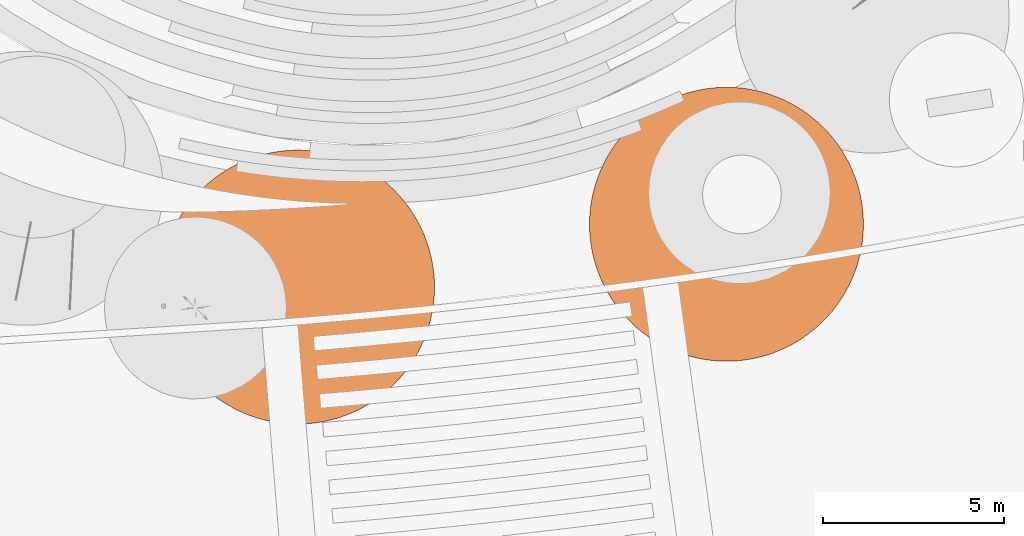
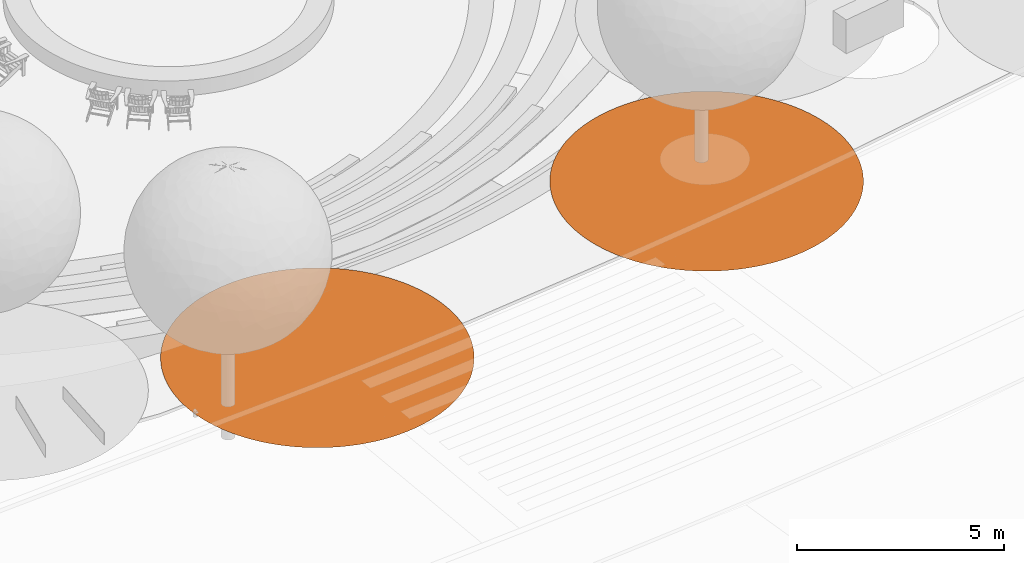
# One storey, part 65 of 75: 2 proxies.
"""IFC2X3 building model written with IfcOpenShell, lengths in metres."""

from ifc_helpers import new_model, entity, si_unit, converted_unit, derived_unit, direction, frame, origin, place, context, subcontext, project, spatial, face_set, surface_model, source, transform, mapped, material, type_object, type_shapes, element, save


model = new_model("IFC2X3")

# Units and contexts
model_context = context("Model", 3, precision=1e-05, world=origin(), true_north=direction((6.123031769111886e-17, 1.0)))
body_context = subcontext(model_context, "Body", "Model", "MODEL_VIEW")
ifc_project = project(units=[si_unit("LENGTHUNIT", "METRE"), si_unit("AREAUNIT", "SQUARE_METRE"), si_unit("VOLUMEUNIT", "CUBIC_METRE"), converted_unit("PLANEANGLEUNIT", "DEGREE", entity("IfcRatioMeasure", 0.017453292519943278), si_unit("PLANEANGLEUNIT", "RADIAN"), dimensions=[0, 0, 0, 0, 0, 0, 0]), si_unit("MASSUNIT", "GRAM", prefix="KILO"), derived_unit("MASSDENSITYUNIT", [(si_unit("MASSUNIT", "GRAM", prefix="KILO"), 1), (si_unit("LENGTHUNIT", "METRE"), -3)]), derived_unit("IONCONCENTRATIONUNIT", [(si_unit("MASSUNIT", "GRAM", prefix="KILO"), 1), (si_unit("LENGTHUNIT", "METRE"), -3)]), derived_unit("MOMENTOFINERTIAUNIT", [(si_unit("LENGTHUNIT", "METRE"), 4)]), si_unit("TIMEUNIT", "SECOND"), si_unit("FREQUENCYUNIT", "HERTZ"), si_unit("THERMODYNAMICTEMPERATUREUNIT", "DEGREE_CELSIUS"), derived_unit("THERMALTRANSMITTANCEUNIT", [(si_unit("MASSUNIT", "GRAM", prefix="KILO"), 1), (si_unit("THERMODYNAMICTEMPERATUREUNIT", "KELVIN"), -1), (si_unit("TIMEUNIT", "SECOND"), -3)]), derived_unit("THERMALCONDUCTANCEUNIT", [(si_unit("MASSUNIT", "GRAM", prefix="KILO"), 1), (si_unit("THERMODYNAMICTEMPERATUREUNIT", "KELVIN"), -1), (si_unit("TIMEUNIT", "SECOND"), -3), (si_unit("LENGTHUNIT", "METRE"), 1)]), derived_unit("VOLUMETRICFLOWRATEUNIT", [(si_unit("LENGTHUNIT", "METRE"), 3), (si_unit("TIMEUNIT", "SECOND"), -1)]), derived_unit("MASSFLOWRATEUNIT", [(si_unit("MASSUNIT", "GRAM", prefix="KILO"), 1), (si_unit("TIMEUNIT", "SECOND"), -1)]), derived_unit("ROTATIONALFREQUENCYUNIT", [(si_unit("TIMEUNIT", "SECOND"), -1)]), si_unit("ELECTRICCURRENTUNIT", "AMPERE"), si_unit("ELECTRICVOLTAGEUNIT", "VOLT"), si_unit("POWERUNIT", "WATT"), si_unit("FORCEUNIT", "NEWTON", prefix="KILO"), si_unit("ILLUMINANCEUNIT", "LUX"), si_unit("LUMINOUSFLUXUNIT", "LUMEN"), si_unit("LUMINOUSINTENSITYUNIT", "CANDELA"), derived_unit("USERDEFINED", [(si_unit("MASSUNIT", "GRAM", prefix="KILO"), -1), (si_unit("LENGTHUNIT", "METRE"), -2), (si_unit("TIMEUNIT", "SECOND"), 3), (si_unit("LUMINOUSFLUXUNIT", "LUMEN"), 1)]), derived_unit("USERDEFINED", [(si_unit("MASSUNIT", "GRAM", prefix="KILO"), 1), (si_unit("TIMEUNIT", "SECOND"), -3), (si_unit("LENGTHUNIT", "METRE"), 3), (si_unit("ELECTRICCURRENTUNIT", "AMPERE"), -2)]), derived_unit("SOUNDPOWERUNIT", [(si_unit("MASSUNIT", "GRAM", prefix="KILO"), 1), (si_unit("TIMEUNIT", "SECOND"), -3), (si_unit("LENGTHUNIT", "METRE"), 2)]), derived_unit("SOUNDPRESSUREUNIT", [(si_unit("MASSUNIT", "GRAM", prefix="KILO"), 1), (si_unit("LENGTHUNIT", "METRE"), -1), (si_unit("TIMEUNIT", "SECOND"), -2)]), derived_unit("LINEARVELOCITYUNIT", [(si_unit("LENGTHUNIT", "METRE"), 1), (si_unit("TIMEUNIT", "SECOND"), -1)]), si_unit("PRESSUREUNIT", "PASCAL"), derived_unit("USERDEFINED", [(si_unit("MASSUNIT", "GRAM", prefix="KILO"), 1), (si_unit("LENGTHUNIT", "METRE"), -2), (si_unit("TIMEUNIT", "SECOND"), -2)]), derived_unit("LINEARFORCEUNIT", [(si_unit("MASSUNIT", "GRAM", prefix="KILO"), 1), (si_unit("TIMEUNIT", "SECOND"), -2)]), derived_unit("PLANARFORCEUNIT", [(si_unit("MASSUNIT", "GRAM", prefix="KILO"), 1), (si_unit("LENGTHUNIT", "METRE"), -1), (si_unit("TIMEUNIT", "SECOND"), -2)]), derived_unit("SPECIFICHEATCAPACITYUNIT", [(si_unit("THERMODYNAMICTEMPERATUREUNIT", "KELVIN"), -1), (si_unit("LENGTHUNIT", "METRE"), 2), (si_unit("TIMEUNIT", "SECOND"), -2)]), derived_unit("HEATINGVALUEUNIT", [(si_unit("LENGTHUNIT", "METRE"), 2), (si_unit("TIMEUNIT", "SECOND"), -2)]), derived_unit("VAPORPERMEABILITYUNIT", [(si_unit("LENGTHUNIT", "METRE"), -1), (si_unit("TIMEUNIT", "SECOND"), 1)]), derived_unit("DYNAMICVISCOSITYUNIT", [(si_unit("MASSUNIT", "GRAM", prefix="KILO"), 1), (si_unit("TIMEUNIT", "SECOND"), -1), (si_unit("LENGTHUNIT", "METRE"), -1)]), derived_unit("THERMALEXPANSIONCOEFFICIENTUNIT", [(si_unit("THERMODYNAMICTEMPERATUREUNIT", "KELVIN"), -1)]), derived_unit("MODULUSOFELASTICITYUNIT", [(si_unit("MASSUNIT", "GRAM", prefix="KILO"), 1), (si_unit("LENGTHUNIT", "METRE"), -1), (si_unit("TIMEUNIT", "SECOND"), -2)]), derived_unit("ISOTHERMALMOISTURECAPACITYUNIT", [(si_unit("LENGTHUNIT", "METRE"), 3), (si_unit("MASSUNIT", "GRAM", prefix="KILO"), -1)]), derived_unit("MOISTUREDIFFUSIVITYUNIT", [(si_unit("TIMEUNIT", "SECOND"), -1), (si_unit("LENGTHUNIT", "METRE"), 2)])], contexts=[model_context])

# Site, building, storey
site_placement = place(None, origin())
site = spatial("IfcSite", under=ifc_project, at=site_placement, Name="Default", CompositionType="ELEMENT")
building_placement = place(site_placement, origin())
building = spatial("IfcBuilding", under=site, at=building_placement, Name="Projeto", CompositionType="ELEMENT")
storey_placement = place(building_placement, origin())
storey = spatial("IfcBuildingStorey", under=building, at=storey_placement, Name="Nível 1", CompositionType="ELEMENT", Elevation=0.0)

# Proxies
ifc_material = material(Name="<Unnamed>")
building_element_proxy_type = type_object("IfcBuildingElementProxyType", Name="Arvore simplificada:Arvore simplificada", PredefinedType="NOTDEFINED", material=ifc_material)
shared_shape = source(origin(), body_context, "Body", "SurfaceModel", [
    surface_model("IfcFaceBasedSurfaceModel", [(-3.9544974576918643, -0.18317979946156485, 0.0), (-3.9483138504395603, -0.3996342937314, 0.0), (-3.929783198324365, -0.6153827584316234, 0.0), (-3.8989659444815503, -0.8297214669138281, 0.0), (-3.855962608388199, -1.0419512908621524, 0.0), (-3.8009134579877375, -1.2513799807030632, 0.0), (-3.733998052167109, -1.4573244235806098, 0.0), (-3.655434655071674, -1.6591128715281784, 0.0), (-3.5654795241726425, -1.8560871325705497, 0.0), (-3.4644260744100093, -2.0476047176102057, 0.0), (-3.3526039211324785, -2.2330409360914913, 0.0), (-3.2303778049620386, -2.411790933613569, 0.0), (-3.098146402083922, -2.583271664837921, 0.0), (-2.9563410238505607, -2.7469237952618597, 0.0), (-2.8054242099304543, -2.9022135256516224, 0.0), (-2.6458882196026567, -3.048634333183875, 0.0), (-2.4782534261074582, -3.1857086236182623, 0.0), (-2.3030666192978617, -3.3129892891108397, 0.0), (-2.12089922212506, -3.430061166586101, 0.0), (-1.93234542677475, -3.5365423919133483, 0.0), (-1.7380202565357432, -3.632085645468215, 0.0), (-1.5385575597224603, -3.7163792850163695, 0.0), (-1.3346079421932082, -3.789148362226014, 0.0), (-1.1268366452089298, -3.8501555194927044, 0.0), (-0.9159213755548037, -3.8992017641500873, 0.0), (-0.7025500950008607, -3.9361271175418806, 0.0), (-0.48741877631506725, -3.9608111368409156, 0.0), (-0.2712291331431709, -3.9731733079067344, 0.0), (-0.054686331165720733, -3.9731733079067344, 0.0), (0.16150331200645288, -3.9608111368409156, 0.0), (0.3766346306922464, -3.9361271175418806, 0.0), (0.5900059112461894, -3.8992017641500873, 0.0), (0.8009211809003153, -3.8501555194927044, 0.0), (1.0086924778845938, -3.789148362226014, 0.0), (1.212642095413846, -3.7163792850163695, 0.0), (1.4121047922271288, -3.632085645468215, 0.0), (1.6064299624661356, -3.5365423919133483, 0.0), (1.7949837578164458, -3.430061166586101, 0.0), (1.9771511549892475, -3.3129892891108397, 0.0), (2.152337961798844, -3.1857086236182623, 0.0), (2.3199727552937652, -3.048634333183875, 0.0), (2.479508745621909, -2.9022135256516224, 0.0), (2.6304255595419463, -2.7469237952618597, 0.0), (2.7722309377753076, -2.583271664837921, 0.0), (2.9044623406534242, -2.411790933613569, 0.0), (3.026688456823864, -2.2330409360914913, 0.0), (3.138510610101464, -2.0476047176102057, 0.0), (3.239564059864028, -1.8560871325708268, 0.0), (3.3295191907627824, -1.6591128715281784, 0.0), (3.4080825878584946, -1.4573244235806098, 0.0), (3.474997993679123, -1.2513799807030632, 0.0), (3.5300471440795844, -1.0419512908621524, 0.0), (3.573050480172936, -0.8297214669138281, 0.0), (3.6038677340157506, -0.6153827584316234, 0.0), (3.622398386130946, -0.3996342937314, 0.0), (3.62858199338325, -0.18317979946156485, 0.0), (3.622398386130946, 0.03327469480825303, 0.0), (3.6038677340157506, 0.24902315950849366, 0.0), (3.573050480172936, 0.4633618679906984, 0.0), (3.5300471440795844, 0.6755916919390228, 0.0), (3.474997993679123, 0.8850203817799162, 0.0), (3.4080825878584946, 1.0909648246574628, 0.0), (3.3295191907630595, 1.2927532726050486, 0.0), (3.239564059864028, 1.4897275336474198, 0.0), (3.138510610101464, 1.6812451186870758, 0.0), (3.026688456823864, 1.8666813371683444, 0.0), (2.9044623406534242, 2.0454313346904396, 0.0), (2.7722309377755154, 2.2169120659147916, 0.0), (2.6304255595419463, 2.38056419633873, 0.0), (2.479508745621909, 2.535853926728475, 0.0), (2.3199727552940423, 2.682274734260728, 0.0), (2.152337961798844, 2.819349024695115, 0.0), (1.9771511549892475, 2.946629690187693, 0.0), (1.7949837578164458, 3.063701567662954, 0.0), (1.6064299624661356, 3.1701827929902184, 0.0), (1.4121047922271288, 3.265726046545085, 0.0), (1.212642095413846, 3.3500196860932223, 0.0), (1.0086924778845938, 3.422788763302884, 0.0), (0.8009211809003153, 3.4837959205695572, 0.0), (0.5900059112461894, 3.5328421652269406, 0.0), (0.3766346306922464, 3.5697675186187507, 0.0), (0.16150331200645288, 3.5944515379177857, 0.0), (-0.05468633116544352, 3.606813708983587, 0.0), (-0.27122913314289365, 3.606813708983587, 0.0), (-0.48741877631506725, 3.5944515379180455, 0.0), (-0.7025500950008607, 3.5697675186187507, 0.0), (-0.9159213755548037, 3.5328421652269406, 0.0), (-1.1268366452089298, 3.4837959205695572, 0.0), (-1.3346079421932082, 3.422788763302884, 0.0), (-1.5385575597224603, 3.3500196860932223, 0.0), (-1.7380202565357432, 3.265726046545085, 0.0), (-1.93234542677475, 3.1701827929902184, 0.0), (-2.12089922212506, 3.063701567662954, 0.0), (-2.3030666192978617, 2.946629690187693, 0.0), (-2.4782534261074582, 2.819349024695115, 0.0), (-2.6458882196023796, 2.682274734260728, 0.0), (-2.8054242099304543, 2.535853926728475, 0.0), (-2.9563410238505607, 2.38056419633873, 0.0), (-3.098146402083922, 2.2169120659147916, 0.0), (-3.2303778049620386, 2.0454313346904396, 0.0), (-3.3526039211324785, 1.8666813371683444, 0.0), (-3.4644260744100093, 1.6812451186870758, 0.0), (-3.5654795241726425, 1.4897275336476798, 0.0), (-3.6554346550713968, 1.2927532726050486, 0.0), (-3.733998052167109, 1.0909648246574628, 0.0), (-3.8009134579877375, 0.8850203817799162, 0.0), (-3.855962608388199, 0.6755916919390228, 0.0), (-3.8989659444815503, 0.4633618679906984, 0.0), (-3.929783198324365, 0.24902315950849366, 0.0), (-3.9483138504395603, 0.03327469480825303, 0.0)], [face_set([[[0, 1, 2, 3, 4, 5, 6, 7, 8, 9, 10, 11, 12, 13, 14, 15, 16, 17, 18, 19, 20, 21, 22, 23, 24, 25, 26, 27, 28, 29, 30, 31, 32, 33, 34, 35, 36, 37, 38, 39, 40, 41, 42, 43, 44, 45, 46, 47, 48, 49, 50, 51, 52, 53, 54, 55, 56, 57, 58, 59, 60, 61, 62, 63, 64, 65, 66, 67, 68, 69, 70, 71, 72, 73, 74, 75, 76, 77, 78, 79, 80, 81, 82, 83, 84, 85, 86, 87, 88, 89, 90, 91, 92, 93, 94, 95, 96, 97, 98, 99, 100, 101, 102, 103, 104, 105, 106, 107, 108, 109]]])]),
])
type_shapes(building_element_proxy_type, [shared_shape])
for number, where, z_axis, x_axis in (
    (1, (2.8226525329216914, -17.908041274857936, 0.0), (0.0, 0.0, 1.0), (0.9422539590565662, 0.3348992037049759, 0.0)),
    (2, (14.695743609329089, -16.16743554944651, 0.0), (0.0, 0.0, 1.0), (0.9422539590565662, 0.3348992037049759, 0.0)),
):
    element("IfcBuildingElementProxy", number, at=place(storey_placement, frame(where, z_axis=z_axis, x_axis=x_axis)), inside=storey, type_object=building_element_proxy_type, material=ifc_material, Name="Arvore simplificada:Arvore simplificada", ObjectType="Arvore simplificada:Arvore simplificada", context=body_context, shape_type="MappedRepresentation", body=[
        mapped(shared_shape, transform((0.0, 0.0, 0.0), scale=1.0)),
    ])

save(model, "model.ifc")
